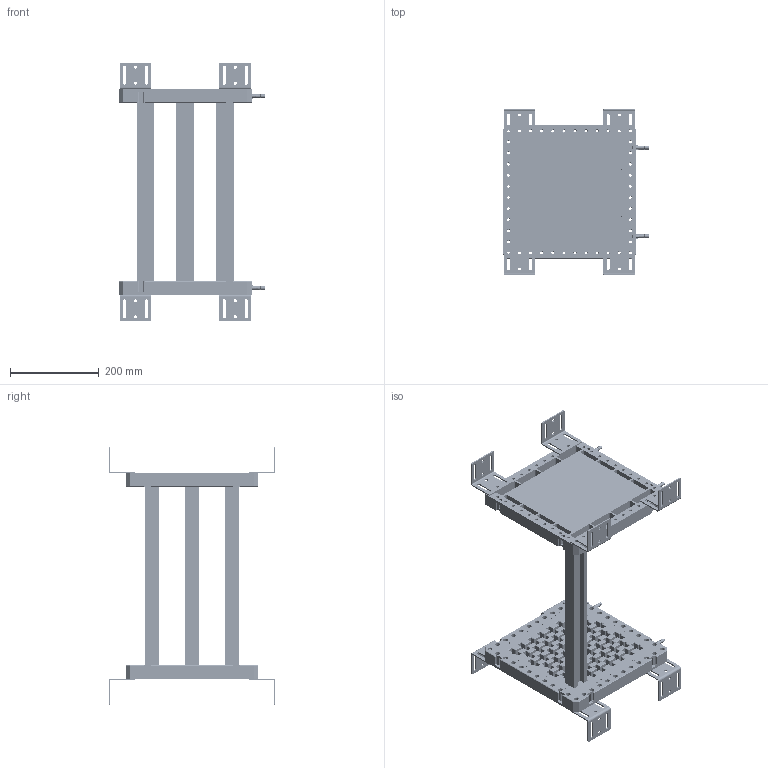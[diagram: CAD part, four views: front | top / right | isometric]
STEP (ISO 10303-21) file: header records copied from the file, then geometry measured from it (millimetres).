
FILE_DESCRIPTION (( 'STEP AP214' ), '1' );
FILE_NAME ('52108-20230624.STEP', '2023-06-24T07:50:00', ( 'gll006' ), ( '' ), 'SwSTEP 2.0', 'SolidWorks 2019', '' );
FILE_SCHEMA (( 'AUTOMOTIVE_DESIGN' ));
Length unit declared in the file: millimetre
Products named in the file (1): 52108-20230624
Bounding box: 329.9 x 375 x 583 mm (x, y, z)
Volume: 4498344.9 mm3; surface area: 1349544 mm2
Topology: 77 solids, 77 shells, 9514 faces, 25770 edges, 16720 vertices
Faces by surface type: plane 6112, cylinder 2450, cone 368, torus 304, bspline 280
Entity records: 377324 total; most frequent: CARTESIAN_POINT 84981, ORIENTED_EDGE 51540, DIRECTION 48908, EDGE_CURVE 25770, LINE 17342, VECTOR 17342, VERTEX_POINT 16720, AXIS2_PLACEMENT_3D 15783
